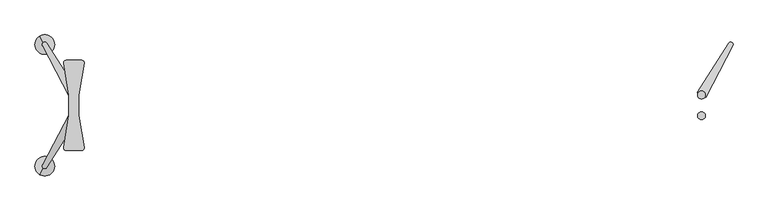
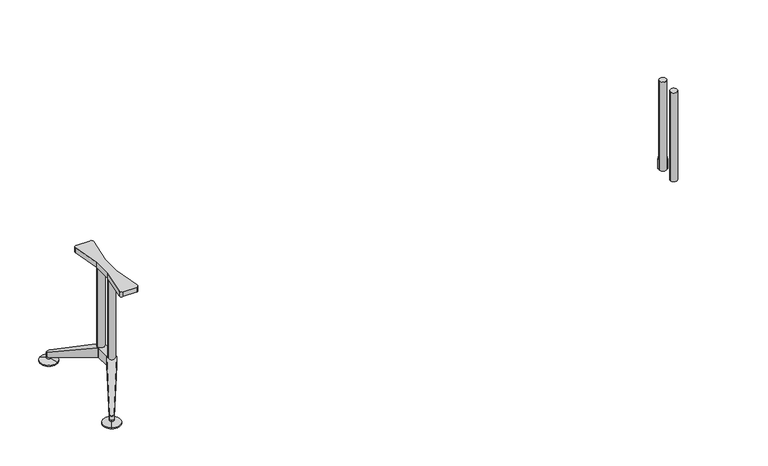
"""IFC4 building model written with IfcOpenShell, lengths in millimetres: furniture geometry, Furniture_Wilkhahn_620-23_Logon Table-Rectangle : Logon 620/23_3800L x 1100W x 730H."""

from ifc_helpers import new_model, si_unit, point, frame, frame_2d, origin, place, context, project, spatial, polyline, circle_curve, ellipse_curve, trimmed, segment, composite_curve, outline, extrude, source, transform, mapped, element, save
from ifc_brep_helpers import plane_surface, cylinder_surface, revolved_surface, advanced_brep


def furniture_0c84aa9d(model_context):
    return source(origin(), model_context, "Body", "SolidModel", [
        advanced_brep(
        [(1759.8189769, 180.8365053, 56.1717347), (1621.6506351, -83.5488456, 195.0), (1621.6506351, -83.5488456, 140.0), (1753.7925387, 169.3049058, 27.0), (1759.8189769, 180.8365053, 27.0), (1738.2296242, 193.3011239, 27.0), (1731.2561852, 182.3162756, 27.0), (1578.3493649, -58.5488456, 140.0), (1578.3493649, -58.5488456, 195.0), (1738.2296242, 193.3011239, 56.1717347), (1755.0, 197.4190296, 50.6048844), (1755.0, 197.4190296, 27.0)],
        [
            (0, 1),
            (1, 2),
            (2, 3),
            (3, 4),
            (4, 0),
            (5, 6),
            (6, 7),
            (7, 8),
            (8, 9),
            (9, 5),
            (0, 10, ellipse_curve(frame((1748.762181, 186.6148102, 56.4159205), z_axis=(0.21111665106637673, 0.36566476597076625, 0.9064871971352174), x_axis=(0.453243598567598, 0.785040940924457, -0.4222333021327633)), 13.7626191, 12.475638)),
            (10, 9, ellipse_curve(frame((1748.762181, 186.6148102, 56.4159205), z_axis=(0.21111665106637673, 0.36566476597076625, 0.9064871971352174), x_axis=(0.453243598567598, 0.785040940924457, -0.4222333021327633)), 13.7626191, 12.475638)),
            (8, 1),
            (5, 11, circle_curve(frame((1748.762181, 186.6148102, 27.0), z_axis=(0.0, 0.0, -1.0), x_axis=(0.8660254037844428, -0.49999999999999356, 0.0)), 12.475638)),
            (11, 4, circle_curve(frame((1748.762181, 186.6148102, 27.0), z_axis=(0.0, 0.0, -1.0), x_axis=(0.8660254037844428, -0.49999999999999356, 0.0)), 12.475638)),
            (3, 6),
            (2, 7),
        ],
        [
            plane_surface(frame((1621.6506351, -83.5488456, 195.0), z_axis=(0.8862709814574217, -0.46316708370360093, 0.0), x_axis=(0.0, 0.0, -1.0))),
            plane_surface(frame((1738.2296242, 193.3011239, 195.0), z_axis=(-0.844249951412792, 0.5359496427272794, 0.0), x_axis=(0.0, 0.0, -1.0))),
            plane_surface(frame((1621.6506351, -83.5488456, 195.0), z_axis=(0.21111665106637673, 0.36566476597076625, 0.9064871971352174), x_axis=(-0.8660254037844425, 0.49999999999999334, 0.0))),
            plane_surface(frame((1776.6506351, 184.9190296, 27.0), z_axis=(0.0, 0.0, -1.0), x_axis=(-0.8660254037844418, 0.4999999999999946, 0.0))),
            plane_surface(frame((1764.1749971, 163.3105907, 27.0), z_axis=(-0.1842613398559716, -0.3191500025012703, -0.9296187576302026), x_axis=(-0.8660254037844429, 0.49999999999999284, 0.0))),
            cylinder_surface(frame((1748.762181, 186.6148102, 0.0), z_axis=(0.0, 0.0, -1.0), x_axis=(0.8660254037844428, -0.49999999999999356, 0.0)), 12.475638),
            plane_surface(frame((1621.6506351, -83.5488456, 140.0), z_axis=(-0.4999999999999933, -0.8660254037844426, 0.0), x_axis=(-0.8660254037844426, 0.4999999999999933, 0.0))),
        ],
        [
            (0, [[1, 2, 3, 4, 5]]),
            (1, [[6, 7, 8, 9, 10]]),
            (2, [[-1, 11, 12, -9, 13]]),
            (3, [[-6, 14, 15, -4, 16]]),
            (4, [[-7, -16, -3, 17]]),
            (5, [[-12, -11, -5, -15, -14, -10]]),
            (6, [[-8, -17, -2, -13]]),
        ],
    ),
        extrude(outline(composite_curve([segment(trimmed(circle_curve(frame_2d((1600.0, -71.0488456)), 20.0), [point((1580.0, -71.0488456))], [point((1620.0, -71.0488456))], False, "CARTESIAN"), True, "CONTINUOUS"), segment(trimmed(circle_curve(frame_2d((1600.0, -71.0488456)), 20.0), [point((1620.0, -71.0488456))], [point((1580.0, -71.0488456))], False, "CARTESIAN"), True, "CONTINUOUS")], self_intersect=False)), frame((0.0, 0.0, 140.0), z_axis=(0.0, 0.0, 1.0), x_axis=(1.0, 0.0, 0.0)), (0.0, 0.0, 1.0), 535.0),
        extrude(outline(composite_curve([segment(trimmed(circle_curve(frame_2d((1600.0, -177.0488456)), 20.0), [point((1580.0, -177.0488456))], [point((1620.0, -177.0488456))], False, "CARTESIAN"), True, "CONTINUOUS"), segment(trimmed(circle_curve(frame_2d((1600.0, -177.0488456)), 20.0), [point((1620.0, -177.0488456))], [point((1580.0, -177.0488456))], False, "CARTESIAN"), True, "CONTINUOUS")], self_intersect=False)), frame((0.0, 0.0, 140.0), z_axis=(0.0, 0.0, 1.0), x_axis=(1.0, 0.0, 0.0)), (0.0, 0.0, 1.0), 535.0),
        extrude(outline(polyline([(-1621.6506351, -164.5488456), (-1621.6506351, -83.5488456), (-1578.3493649, -58.5488456), (-1578.3493649, -189.5488456), (-1621.6506351, -164.5488456)])), frame((0.0, 0.0, 140.0), z_axis=(0.0, 0.0, 1.0), x_axis=(1.0, 0.0, 0.0)), (0.0, 0.0, 1.0), 55.0),
        advanced_brep(
        [(-1578.3493649, -189.5488456, 195.0), (-1621.6506351, -164.5488456, 195.0), (-1759.8189769, -428.9341964, 56.1717347), (-1755.0, -445.5167207, 50.6048844), (-1738.2296242, -441.398815, 56.1717347), (-1753.7925387, -417.402597, 27.0), (-1731.2561852, -430.4139667, 27.0), (-1738.2296242, -441.398815, 27.0), (-1755.0, -445.5167207, 27.0), (-1759.8189769, -428.9341964, 27.0), (-1621.6506351, -164.5488456, 140.0), (-1578.3493649, -189.5488456, 140.0)],
        [
            (0, 1),
            (1, 2),
            (2, 3, ellipse_curve(frame((-1748.762181, -434.7125013, 56.4159205), z_axis=(-0.21111665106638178, -0.36566476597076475, 0.906487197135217), x_axis=(-0.45324359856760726, -0.7850409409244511, -0.4222333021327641)), 13.7626191, 12.475638)),
            (3, 4, ellipse_curve(frame((-1748.762181, -434.7125013, 56.4159205), z_axis=(-0.21111665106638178, -0.36566476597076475, 0.906487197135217), x_axis=(-0.45324359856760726, -0.7850409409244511, -0.4222333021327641)), 13.7626191, 12.475638)),
            (4, 0),
            (5, 6),
            (6, 7),
            (7, 8, circle_curve(frame((-1748.762181, -434.7125013, 27.0), z_axis=(0.0, 0.0, -1.0), x_axis=(-0.8660254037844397, 0.4999999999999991, 0.0)), 12.475638)),
            (8, 9, circle_curve(frame((-1748.762181, -434.7125013, 27.0), z_axis=(0.0, 0.0, -1.0), x_axis=(-0.8660254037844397, 0.4999999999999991, 0.0)), 12.475638)),
            (9, 5),
            (10, 11),
            (11, 6),
            (5, 10),
            (0, 11),
            (10, 1),
            (9, 2),
            (4, 7),
        ],
        [
            plane_surface(frame((-1776.6506351, -433.0167207, 50.6048844), z_axis=(-0.21111665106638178, -0.36566476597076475, 0.906487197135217), x_axis=(0.8660254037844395, -0.49999999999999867, 0.0))),
            plane_surface(frame((-1764.1749971, -411.4082819, 27.0), z_axis=(0.0, 0.0, -1.0), x_axis=(0.8660254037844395, -0.49999999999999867, 0.0))),
            plane_surface(frame((-1621.6506351, -164.5488456, 140.0), z_axis=(0.18426133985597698, 0.3191500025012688, -0.9296187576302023), x_axis=(0.866025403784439, -0.4999999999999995, 0.0))),
            plane_surface(frame((-1621.6506351, -164.5488456, 195.0), z_axis=(0.4999999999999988, 0.8660254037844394, 0.0), x_axis=(0.8660254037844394, -0.4999999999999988, 0.0))),
            plane_surface(frame((-1759.8189769, -428.9341964, 195.0), z_axis=(-0.8862709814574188, 0.4631670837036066, 0.0), x_axis=(0.0, 0.0, -1.0))),
            plane_surface(frame((-1578.3493649, -189.5488456, 195.0), z_axis=(0.8442499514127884, -0.5359496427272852, 0.0), x_axis=(0.0, 0.0, -1.0))),
            cylinder_surface(frame((-1748.762181, -434.7125013, 0.0), z_axis=(0.0, 0.0, -1.0), x_axis=(-0.8660254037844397, 0.4999999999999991, 0.0)), 12.475638),
        ],
        [
            (0, [[1, 2, 3, 4, 5]]),
            (1, [[6, 7, 8, 9, 10]]),
            (2, [[11, 12, -6, 13]]),
            (3, [[-1, 14, -11, 15]]),
            (4, [[16, -2, -15, -13, -10]]),
            (5, [[17, -7, -12, -14, -5]]),
            (6, [[-16, -9, -8, -17, -4, -3]]),
        ],
    ),
        advanced_brep(
        [(-1748.762181, 186.6148102, 0.0), (-1773.762181, 229.9160804, 0.0), (-1723.762181, 143.31354, 0.0), (-1773.762181, 229.9160804, 6.0), (-1723.762181, 143.31354, 6.0), (-1755.0, 197.4190296, 17.0), (-1742.524362, 175.8105907, 17.0), (-1755.0, 197.4190296, 27.0), (-1742.524362, 175.8105907, 27.0), (-1748.762181, 186.6148102, 27.0)],
        [
            (0, 1),
            (1, 2, circle_curve(frame((-1748.762181, 186.6148102, 0.0), z_axis=(0.0, 0.0, -1.0), x_axis=(-0.49999999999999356, 0.8660254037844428, 0.0)), 50.0)),
            (2, 0),
            (2, 1, circle_curve(frame((-1748.762181, 186.6148102, 0.0), z_axis=(0.0, 0.0, -1.0), x_axis=(-0.49999999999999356, 0.8660254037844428, 0.0)), 50.0)),
            (1, 3),
            (3, 4, circle_curve(frame((-1748.762181, 186.6148102, 6.0), z_axis=(0.0, 0.0, -1.0), x_axis=(-0.49999999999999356, 0.8660254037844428, 0.0)), 50.0)),
            (4, 2),
            (4, 3, circle_curve(frame((-1748.762181, 186.6148102, 6.0), z_axis=(0.0, 0.0, -1.0), x_axis=(-0.49999999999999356, 0.8660254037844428, 0.0)), 50.0)),
            (3, 5),
            (5, 6, circle_curve(frame((-1748.762181, 186.6148102, 17.0), z_axis=(0.0, 0.0, -1.0), x_axis=(-0.49999999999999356, 0.8660254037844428, 0.0)), 12.475638)),
            (6, 4),
            (6, 5, circle_curve(frame((-1748.762181, 186.6148102, 17.0), z_axis=(0.0, 0.0, -1.0), x_axis=(-0.49999999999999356, 0.8660254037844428, 0.0)), 12.475638)),
            (5, 7),
            (7, 8, circle_curve(frame((-1748.762181, 186.6148102, 27.0), z_axis=(0.0, 0.0, -1.0), x_axis=(-0.49999999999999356, 0.8660254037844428, 0.0)), 12.475638)),
            (8, 6),
            (8, 7, circle_curve(frame((-1748.762181, 186.6148102, 27.0), z_axis=(0.0, 0.0, -1.0), x_axis=(-0.49999999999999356, 0.8660254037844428, 0.0)), 12.475638)),
            (7, 9),
            (9, 8),
        ],
        [
            plane_surface(frame((-1748.762181, 186.6148102, 0.0), z_axis=(0.0, 0.0, -1.0), x_axis=(-0.49999999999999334, 0.8660254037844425, 0.0))),
            cylinder_surface(frame((-1748.762181, 186.6148102, 27.0), z_axis=(0.0, 0.0, -1.0), x_axis=(-0.49999999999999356, 0.8660254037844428, 0.0)), 50.0),
            revolved_surface(polyline([(-1755.0, 197.4190296, 17.0), (-1773.762181, 229.9160804, 6.0)]), (-1748.762181, 186.6148102, 27.0), (0.0, 0.0, -1.0)),
            cylinder_surface(frame((-1748.762181, 186.6148102, 27.0), z_axis=(0.0, 0.0, -1.0), x_axis=(-0.49999999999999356, 0.8660254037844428, 0.0)), 12.475638),
            plane_surface(frame((-1748.762181, 186.6148102, 27.0), z_axis=(0.0, 0.0, 1.0), x_axis=(-0.49999999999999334, 0.8660254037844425, 0.0))),
        ],
        [
            (0, [[1, 2, 3]]),
            (0, [[-3, 4, -1]]),
            (1, [[-2, 5, 6, 7]]),
            (1, [[-4, -7, 8, -5]]),
            (2, [[-6, 9, 10, 11]]),
            (2, [[-8, -11, 12, -9]]),
            (3, [[-10, 13, 14, 15]]),
            (3, [[-12, -15, 16, -13]]),
            (4, [[-14, 17, 18]]),
            (4, [[-16, -18, -17]]),
        ],
    ),
        advanced_brep(
        [(-1723.762181, -391.4112311, 0.0), (-1773.762181, -478.0137715, 0.0), (-1748.762181, -434.7125013, 0.0), (-1723.762181, -391.4112311, 6.0), (-1773.762181, -478.0137715, 6.0), (-1742.524362, -423.9082819, 17.0), (-1755.0, -445.5167207, 17.0), (-1742.524362, -423.9082819, 27.0), (-1755.0, -445.5167207, 27.0), (-1748.762181, -434.7125013, 27.0)],
        [
            (0, 1, circle_curve(frame((-1748.762181, -434.7125013, 0.0), z_axis=(0.0, 0.0, -1.0), x_axis=(-0.4999999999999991, -0.8660254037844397, 0.0)), 50.0)),
            (1, 2),
            (2, 0),
            (1, 0, circle_curve(frame((-1748.762181, -434.7125013, 0.0), z_axis=(0.0, 0.0, -1.0), x_axis=(-0.4999999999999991, -0.8660254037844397, 0.0)), 50.0)),
            (3, 4, circle_curve(frame((-1748.762181, -434.7125013, 6.0), z_axis=(0.0, 0.0, -1.0), x_axis=(-0.4999999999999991, -0.8660254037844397, 0.0)), 50.0)),
            (4, 1),
            (0, 3),
            (4, 3, circle_curve(frame((-1748.762181, -434.7125013, 6.0), z_axis=(0.0, 0.0, -1.0), x_axis=(-0.4999999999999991, -0.8660254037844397, 0.0)), 50.0)),
            (5, 6, circle_curve(frame((-1748.762181, -434.7125013, 17.0), z_axis=(0.0, 0.0, -1.0), x_axis=(-0.4999999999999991, -0.8660254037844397, 0.0)), 12.475638)),
            (6, 4),
            (3, 5),
            (6, 5, circle_curve(frame((-1748.762181, -434.7125013, 17.0), z_axis=(0.0, 0.0, -1.0), x_axis=(-0.4999999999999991, -0.8660254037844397, 0.0)), 12.475638)),
            (7, 8, circle_curve(frame((-1748.762181, -434.7125013, 27.0), z_axis=(0.0, 0.0, -1.0), x_axis=(-0.4999999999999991, -0.8660254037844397, 0.0)), 12.475638)),
            (8, 6),
            (5, 7),
            (8, 7, circle_curve(frame((-1748.762181, -434.7125013, 27.0), z_axis=(0.0, 0.0, -1.0), x_axis=(-0.4999999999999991, -0.8660254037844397, 0.0)), 12.475638)),
            (9, 8),
            (7, 9),
        ],
        [
            plane_surface(frame((-1748.762181, -434.7125013, 0.0), z_axis=(0.0, 0.0, -1.0), x_axis=(-0.4999999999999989, -0.8660254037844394, 0.0))),
            cylinder_surface(frame((-1748.762181, -434.7125013, 27.0), z_axis=(0.0, 0.0, 1.0), x_axis=(-0.4999999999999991, -0.8660254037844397, 0.0)), 50.0),
            revolved_surface(polyline([(-1773.762181, -478.0137715, 6.0), (-1755.0, -445.5167207, 17.0)]), (-1748.762181, -434.7125013, 27.0), (0.0, 0.0, 1.0)),
            cylinder_surface(frame((-1748.762181, -434.7125013, 27.0), z_axis=(0.0, 0.0, 1.0), x_axis=(-0.4999999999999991, -0.8660254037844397, 0.0)), 12.475638),
            plane_surface(frame((-1748.762181, -434.7125013, 27.0), z_axis=(0.0, 0.0, 1.0), x_axis=(-0.4999999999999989, -0.8660254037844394, 0.0))),
        ],
        [
            (0, [[1, 2, 3]]),
            (0, [[4, -3, -2]]),
            (1, [[5, 6, -1, 7]]),
            (1, [[8, -7, -4, -6]]),
            (2, [[9, 10, -5, 11]]),
            (2, [[12, -11, -8, -10]]),
            (3, [[13, 14, -9, 15]]),
            (3, [[16, -15, -12, -14]]),
            (4, [[17, -13, 18]]),
            (4, [[-18, -16, -17]]),
        ],
    ),
        extrude(outline(composite_curve([segment(polyline([(-1625.0, -71.0488456), (-1651.7160071, 92.0109222)]), True, "CONTINUOUS"), segment(trimmed(circle_curve(frame_2d((-1639.8739001, 93.9511544)), 12.0), [point((-1651.7160071, 92.0109222))], [point((-1639.8739001, 105.9511544))], False, "CARTESIAN"), True, "CONTINUOUS"), segment(polyline([(-1639.8739001, 105.9511544), (-1560.1260999, 105.9511544)]), True, "CONTINUOUS"), segment(trimmed(circle_curve(frame_2d((-1560.1260999, 93.9511544)), 12.0), [point((-1560.1260999, 105.9511544))], [point((-1548.2839929, 92.0109222))], False, "CARTESIAN"), True, "CONTINUOUS"), segment(polyline([(-1548.2839929, 92.0109222), (-1575.0, -71.0488456), (-1575.0, -177.0488456), (-1548.2839929, -340.1086133)]), True, "CONTINUOUS"), segment(trimmed(circle_curve(frame_2d((-1560.1260999, -342.0488456)), 12.0), [point((-1548.2839929, -340.1086133))], [point((-1560.1260999, -354.0488456))], False, "CARTESIAN"), True, "CONTINUOUS"), segment(polyline([(-1560.1260999, -354.0488456), (-1639.8739001, -354.0488456)]), True, "CONTINUOUS"), segment(trimmed(circle_curve(frame_2d((-1639.8739001, -342.0488456)), 12.0), [point((-1639.8739001, -354.0488456))], [point((-1651.7160071, -340.1086133))], False, "CARTESIAN"), True, "CONTINUOUS"), segment(polyline([(-1651.7160071, -340.1086133), (-1625.0, -177.0488456), (-1625.0, -71.0488456)]), True, "CONTINUOUS")], self_intersect=False)), frame((0.0, 0.0, 675.0), z_axis=(0.0, 0.0, 1.0), x_axis=(1.0, 0.0, 0.0)), (0.0, 0.0, 1.0), 29.0),
        advanced_brep(
        [(-1759.8189769, 180.8365053, 56.1717347), (-1759.8189769, 180.8365053, 27.0), (-1753.7925387, 169.3049058, 27.0), (-1621.6506351, -83.5488456, 140.0), (-1621.6506351, -83.5488456, 195.0), (-1738.2296242, 193.3011239, 27.0), (-1738.2296242, 193.3011239, 56.1717347), (-1578.3493649, -58.5488456, 195.0), (-1578.3493649, -58.5488456, 140.0), (-1731.2561852, 182.3162756, 27.0), (-1755.0, 197.4190296, 50.6048844), (-1755.0, 197.4190296, 27.0)],
        [
            (0, 1),
            (1, 2),
            (2, 3),
            (3, 4),
            (4, 0),
            (5, 6),
            (6, 7),
            (7, 8),
            (8, 9),
            (9, 5),
            (4, 7),
            (6, 10, ellipse_curve(frame((-1748.762181, 186.6148102, 56.4159205), z_axis=(-0.2111166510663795, 0.36566476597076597, 0.9064871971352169), x_axis=(-0.4532435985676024, 0.7850409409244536, -0.4222333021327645)), 13.7626191, 12.475638)),
            (10, 0, ellipse_curve(frame((-1748.762181, 186.6148102, 56.4159205), z_axis=(-0.2111166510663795, 0.36566476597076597, 0.9064871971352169), x_axis=(-0.4532435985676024, 0.7850409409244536, -0.4222333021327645)), 13.7626191, 12.475638)),
            (9, 2),
            (1, 11, circle_curve(frame((-1748.762181, 186.6148102, 27.0), z_axis=(0.0, 0.0, -1.0), x_axis=(-0.8660254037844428, -0.49999999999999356, 0.0)), 12.475638)),
            (11, 5, circle_curve(frame((-1748.762181, 186.6148102, 27.0), z_axis=(0.0, 0.0, -1.0), x_axis=(-0.8660254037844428, -0.49999999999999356, 0.0)), 12.475638)),
            (8, 3),
        ],
        [
            plane_surface(frame((-1621.6506351, -83.5488456, 195.0), z_axis=(-0.8862709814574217, -0.46316708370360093, 0.0), x_axis=(0.0, 0.0, -1.0))),
            plane_surface(frame((-1738.2296242, 193.3011239, 195.0), z_axis=(0.844249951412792, 0.5359496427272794, 0.0), x_axis=(0.0, 0.0, -1.0))),
            plane_surface(frame((-1621.6506351, -83.5488456, 195.0), z_axis=(-0.2111166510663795, 0.36566476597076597, 0.9064871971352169), x_axis=(0.8660254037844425, 0.49999999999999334, 0.0))),
            plane_surface(frame((-1776.6506351, 184.9190296, 27.0), z_axis=(0.0, 0.0, -1.0), x_axis=(0.8660254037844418, 0.4999999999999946, 0.0))),
            plane_surface(frame((-1764.1749971, 163.3105907, 27.0), z_axis=(0.18426133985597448, -0.3191500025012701, -0.9296187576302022), x_axis=(0.8660254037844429, 0.49999999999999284, 0.0))),
            cylinder_surface(frame((-1748.762181, 186.6148102, 0.0), z_axis=(0.0, 0.0, -1.0), x_axis=(-0.8660254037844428, -0.49999999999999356, 0.0)), 12.475638),
            plane_surface(frame((-1621.6506351, -83.5488456, 140.0), z_axis=(0.4999999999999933, -0.8660254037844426, 0.0), x_axis=(0.8660254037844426, 0.4999999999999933, 0.0))),
        ],
        [
            (0, [[1, 2, 3, 4, 5]]),
            (1, [[6, 7, 8, 9, 10]]),
            (2, [[11, -7, 12, 13, -5]]),
            (3, [[14, -2, 15, 16, -10]]),
            (4, [[17, -3, -14, -9]]),
            (5, [[-6, -16, -15, -1, -13, -12]]),
            (6, [[-11, -4, -17, -8]]),
        ],
    ),
        extrude(outline(composite_curve([segment(trimmed(circle_curve(frame_2d((-1600.0, -71.0488456)), 20.0), [point((-1580.0, -71.0488456))], [point((-1620.0, -71.0488456))], False, "CARTESIAN"), True, "CONTINUOUS"), segment(trimmed(circle_curve(frame_2d((-1600.0, -71.0488456)), 20.0), [point((-1620.0, -71.0488456))], [point((-1580.0, -71.0488456))], False, "CARTESIAN"), True, "CONTINUOUS")], self_intersect=False)), frame((0.0, 0.0, 140.0), z_axis=(0.0, 0.0, 1.0), x_axis=(1.0, 0.0, 0.0)), (0.0, 0.0, 1.0), 535.0),
        extrude(outline(composite_curve([segment(trimmed(circle_curve(frame_2d((-1600.0, -177.0488456)), 20.0), [point((-1580.0, -177.0488456))], [point((-1620.0, -177.0488456))], False, "CARTESIAN"), True, "CONTINUOUS"), segment(trimmed(circle_curve(frame_2d((-1600.0, -177.0488456)), 20.0), [point((-1620.0, -177.0488456))], [point((-1580.0, -177.0488456))], False, "CARTESIAN"), True, "CONTINUOUS")], self_intersect=False)), frame((0.0, 0.0, 140.0), z_axis=(0.0, 0.0, 1.0), x_axis=(1.0, 0.0, 0.0)), (0.0, 0.0, 1.0), 535.0),
    ])


if __name__ == "__main__":
    model = new_model("IFC4")
    model_context = context("Model", 3, world=origin())
    ifc_project = project(units=[si_unit("LENGTHUNIT", "METRE", prefix="MILLI")], contexts=[model_context])
    site = spatial("IfcSite", under=ifc_project)
    building = spatial("IfcBuilding", under=site)
    placement = place(None, origin())
    furniture_shape = furniture_0c84aa9d(model_context)
    element("IfcFurniture", 1, ObjectType="Furniture_Wilkhahn_620-23_Logon Table-Rectangle : Logon 620/23_3800L x 1100W x 730H", at=placement, inside=building, context=model_context, shape_type="MappedRepresentation", body=[
        mapped(furniture_shape, transform((0.0, 0.0, 0.0), x_axis=(1.0, 0.0, 0.0), y_axis=(0.0, 1.0, 0.0), z_axis=(0.0, 0.0, 1.0))),
    ])
    save(model, "model.ifc")
